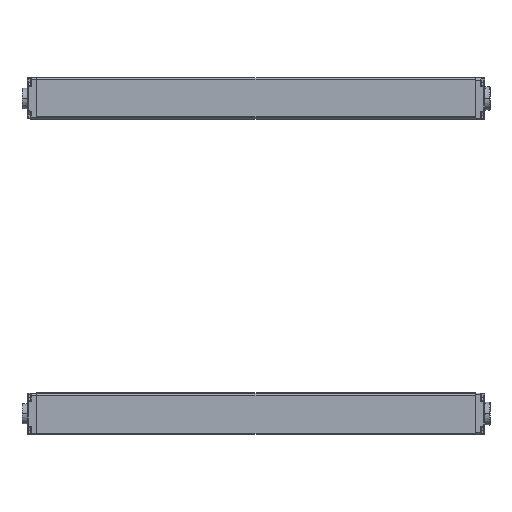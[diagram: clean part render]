
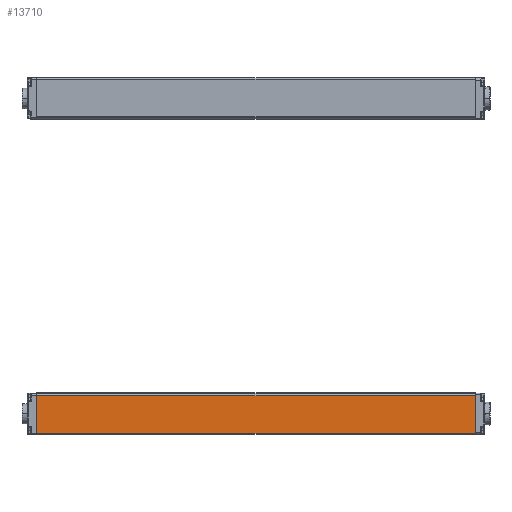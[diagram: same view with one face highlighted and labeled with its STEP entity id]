
A CAD part, left-side view. The second image highlights one B-rep face of the part: STEP entity #13710.
In plain terms, the highlighted planar face has unit normal (-1, 0, -0.009) as drawn and (1, 0, 0) by its records, which use the part's own axes.
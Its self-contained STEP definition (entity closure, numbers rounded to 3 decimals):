
#119 = EDGE_LOOP ( 'NONE', ( #310, #14275, #12395, #1406 ) ) ;
#310 = ORIENTED_EDGE ( 'NONE', *, *, #10266, .T. ) ;
#493 = CARTESIAN_POINT ( 'NONE',  ( 15., 0., -16.693 ) ) ;
#632 = LINE ( 'NONE', #6194, #8923 ) ;
#1406 = ORIENTED_EDGE ( 'NONE', *, *, #3513, .T. ) ;
#2535 = VECTOR ( 'NONE', #4922, 1000. ) ;
#2739 = DIRECTION ( 'NONE',  ( -1., 0., 0. ) ) ;
#2806 = CARTESIAN_POINT ( 'NONE',  ( 15., 320., -16.693 ) ) ;
#2849 = CARTESIAN_POINT ( 'NONE',  ( 15., 320., -16.9 ) ) ;
#3513 = EDGE_CURVE ( 'NONE', #5886, #11630, #4988, .T. ) ;
#4101 = FACE_OUTER_BOUND ( 'NONE', #119, .T. ) ;
#4352 = CARTESIAN_POINT ( 'NONE',  ( 15., 0., 10.9 ) ) ;
#4922 = DIRECTION ( 'NONE',  ( 0., 0., -1. ) ) ;
#4988 = LINE ( 'NONE', #10542, #6422 ) ;
#5886 = VERTEX_POINT ( 'NONE', #14781 ) ;
#6194 = CARTESIAN_POINT ( 'NONE',  ( 15., 320., -16.693 ) ) ;
#6422 = VECTOR ( 'NONE', #16101, 1000. ) ;
#7540 = EDGE_CURVE ( 'NONE', #8259, #11562, #632, .T. ) ;
#8259 = VERTEX_POINT ( 'NONE', #493 ) ;
#8280 = DIRECTION ( 'NONE',  ( 0., 0., 1. ) ) ;
#8386 = DIRECTION ( 'NONE',  ( 0., 0., -1. ) ) ;
#8572 = AXIS2_PLACEMENT_3D ( 'NONE', #15206, #2739, #8280 ) ;
#8923 = VECTOR ( 'NONE', #11738, 1000. ) ;
#9647 = PLANE ( 'NONE',  #8572 ) ;
#10266 = EDGE_CURVE ( 'NONE', #11630, #8259, #11845, .T. ) ;
#10542 = CARTESIAN_POINT ( 'NONE',  ( 15., 320., 10.9 ) ) ;
#10641 = EDGE_CURVE ( 'NONE', #5886, #11562, #15319, .T. ) ;
#11562 = VERTEX_POINT ( 'NONE', #2806 ) ;
#11630 = VERTEX_POINT ( 'NONE', #4352 ) ;
#11738 = DIRECTION ( 'NONE',  ( 0., 1., 0. ) ) ;
#11845 = LINE ( 'NONE', #17405, #2535 ) ;
#12135 = VECTOR ( 'NONE', #8386, 1000. ) ;
#12395 = ORIENTED_EDGE ( 'NONE', *, *, #10641, .F. ) ;
#13710 = ADVANCED_FACE ( 'NONE', ( #4101 ), #9647, .F. ) ;
#14275 = ORIENTED_EDGE ( 'NONE', *, *, #7540, .T. ) ;
#14781 = CARTESIAN_POINT ( 'NONE',  ( 15., 320., 10.9 ) ) ;
#15206 = CARTESIAN_POINT ( 'NONE',  ( 15., 320., -16.9 ) ) ;
#15319 = LINE ( 'NONE', #2849, #12135 ) ;
#16101 = DIRECTION ( 'NONE',  ( 0., -1., 0. ) ) ;
#17405 = CARTESIAN_POINT ( 'NONE',  ( 15., 0., -16.9 ) ) ;
